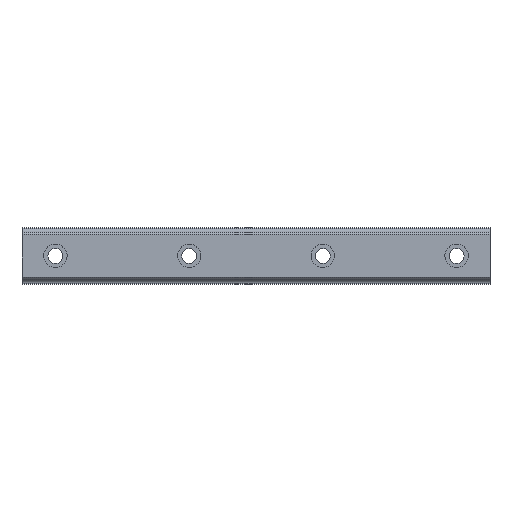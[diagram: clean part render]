
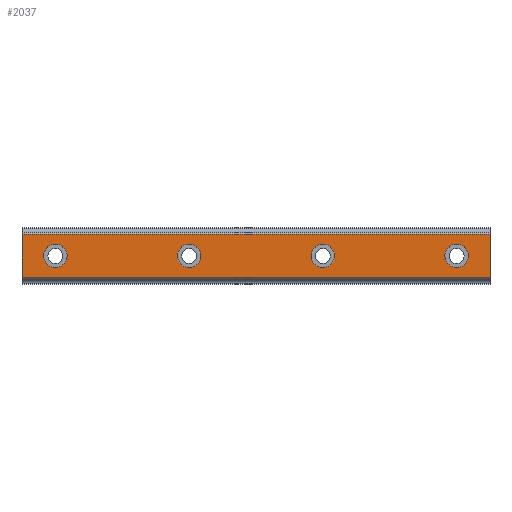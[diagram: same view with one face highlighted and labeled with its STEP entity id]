
A CAD part, top view. The second image highlights one B-rep face of the part: STEP entity #2037.
In plain terms, the highlighted planar face has unit normal (0, 0, 1).
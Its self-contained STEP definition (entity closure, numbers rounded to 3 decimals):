
#1674=CARTESIAN_POINT('POINT111',(260.,-12.859,
   27.5));
#1675=VERTEX_POINT('VERTEX111',#1674);
#1682=CARTESIAN_POINT('POINT112',(-20.,-12.859,
   27.5));
#1683=VERTEX_POINT('VERTEX112',#1682);
#1684=CARTESIAN_POINT('POS201',(-20.,-12.859,
   27.5));
#1685=DIRECTION('DIR298',(1.,0.,0.));
#1686=VECTOR('VEC104',#1685,1.);
#1687=LINE('STRAIGHT104',#1684,#1686);
#1688=EDGE_CURVE('EDGE162',#1683,#1675,#1687,.T.);
#1728=CARTESIAN_POINT('POINT113',(-20.,12.859,
   27.5));
#1729=VERTEX_POINT('VERTEX113',#1728);
#1730=CARTESIAN_POINT('POS204',(-20.,-12.859,
   27.5));
#1731=DIRECTION('DIR302',(0.,1.,0.));
#1732=VECTOR('VEC106',#1731,1.);
#1733=LINE('STRAIGHT106',#1730,#1732);
#1734=EDGE_CURVE('EDGE164',#1683,#1729,#1733,.T.);
#1771=CARTESIAN_POINT('POINT114',(260.,12.859,
   27.5));
#1772=VERTEX_POINT('VERTEX114',#1771);
#1781=CARTESIAN_POINT('POS208',(-20.,12.859,
   27.5));
#1782=DIRECTION('DIR307',(1.,0.,0.));
#1783=VECTOR('VEC109',#1782,1.);
#1784=LINE('STRAIGHT109',#1781,#1783);
#1785=EDGE_CURVE('EDGE167',#1729,#1772,#1784,.T.);
#1819=CARTESIAN_POINT('POS210',(260.,0.,
   27.5));
#1820=DIRECTION('DIR310',(0.,1.,0.));
#1821=VECTOR('VEC110',#1820,1.);
#1822=LINE('STRAIGHT110',#1819,#1821);
#1823=EDGE_CURVE('EDGE168',#1675,#1772,#1822,.T.);
#1854=CARTESIAN_POINT('POINT115',(87.,0.,
   27.5));
#1855=VERTEX_POINT('VERTEX115',#1854);
#1863=CARTESIAN_POINT('POINT116',(73.,0.,
   27.5));
#1864=VERTEX_POINT('VERTEX116',#1863);
#1871=CARTESIAN_POINT('POS214',(80.,0.,27.5)
   );
#1872=DIRECTION('DIR315',(0.,0.,-1.));
#1873=DIRECTION('DIR316',(1.,0.,0.));
#1874=AXIS2_PLACEMENT_3D('AXIS102',#1871,#1872,#1873);
#1875=CIRCLE('ELLIPSE48',#1874,7.);
#1876=EDGE_CURVE('EDGE171',#1855,#1864,#1875,.T.);
#1887=EDGE_CURVE('EDGE172',#1864,#1855,#1875,.T.);
#1894=CARTESIAN_POINT('POINT117',(167.,0.,
   27.5));
#1895=VERTEX_POINT('VERTEX117',#1894);
#1903=CARTESIAN_POINT('POINT118',(153.,0.,
   27.5));
#1904=VERTEX_POINT('VERTEX118',#1903);
#1911=CARTESIAN_POINT('POS218',(160.,0.,27.5)
   );
#1912=DIRECTION('DIR321',(0.,0.,-1.));
#1913=DIRECTION('DIR322',(1.,0.,0.));
#1914=AXIS2_PLACEMENT_3D('AXIS104',#1911,#1912,#1913);
#1915=CIRCLE('ELLIPSE49',#1914,7.);
#1916=EDGE_CURVE('EDGE175',#1895,#1904,#1915,.T.);
#1927=EDGE_CURVE('EDGE176',#1904,#1895,#1915,.T.);
#1934=CARTESIAN_POINT('POINT119',(247.,0.,
   27.5));
#1935=VERTEX_POINT('VERTEX119',#1934);
#1943=CARTESIAN_POINT('POINT120',(233.,0.,
   27.5));
#1944=VERTEX_POINT('VERTEX120',#1943);
#1951=CARTESIAN_POINT('POS222',(240.,0.,27.5)
   );
#1952=DIRECTION('DIR327',(0.,0.,-1.));
#1953=DIRECTION('DIR328',(1.,0.,0.));
#1954=AXIS2_PLACEMENT_3D('AXIS106',#1951,#1952,#1953);
#1955=CIRCLE('ELLIPSE50',#1954,7.);
#1956=EDGE_CURVE('EDGE179',#1935,#1944,#1955,.T.);
#1967=EDGE_CURVE('EDGE180',#1944,#1935,#1955,.T.);
#1999=ORIENTED_EDGE('COEDGE353',*,*,#1967,.T.);
#2000=ORIENTED_EDGE('COEDGE354',*,*,#1956,.T.);
#2001=EDGE_LOOP('NONE',(#1999,#2000));
#2002=FACE_BOUND('LOOP1',#2001,.T.);
#2003=ORIENTED_EDGE('COEDGE355',*,*,#1927,.T.);
#2004=ORIENTED_EDGE('COEDGE356',*,*,#1916,.T.);
#2005=EDGE_LOOP('NONE',(#2003,#2004));
#2006=FACE_BOUND('LOOP1',#2005,.T.);
#2007=ORIENTED_EDGE('COEDGE357',*,*,#1887,.T.);
#2008=ORIENTED_EDGE('COEDGE358',*,*,#1876,.T.);
#2009=EDGE_LOOP('NONE',(#2007,#2008));
#2010=FACE_BOUND('LOOP1',#2009,.T.);
#2011=CARTESIAN_POINT('POINT123',(-7.,0.,
   27.5));
#2012=VERTEX_POINT('VERTEX123',#2011);
#2013=CARTESIAN_POINT('POINT124',(7.,0.,
   27.5));
#2014=VERTEX_POINT('VERTEX124',#2013);
#2015=CARTESIAN_POINT('POS226',(0.,0.,27.5)
   );
#2016=DIRECTION('DIR335',(0.,0.,-1.));
#2017=DIRECTION('DIR336',(1.,0.,0.));
#2018=AXIS2_PLACEMENT_3D('AXIS110',#2015,#2016,#2017);
#2019=CIRCLE('ELLIPSE52',#2018,7.);
#2020=EDGE_CURVE('EDGE183',#2012,#2014,#2019,.T.);
#2021=ORIENTED_EDGE('COEDGE359',*,*,#2020,.T.);
#2022=EDGE_CURVE('EDGE184',#2014,#2012,#2019,.T.);
#2023=ORIENTED_EDGE('COEDGE360',*,*,#2022,.T.);
#2024=EDGE_LOOP('NONE',(#2021,#2023));
#2025=FACE_BOUND('LOOP1',#2024,.T.);
#2026=ORIENTED_EDGE('COEDGE361',*,*,#1823,.T.);
#2027=ORIENTED_EDGE('COEDGE362',*,*,#1785,.F.);
#2028=ORIENTED_EDGE('COEDGE363',*,*,#1734,.F.);
#2029=ORIENTED_EDGE('COEDGE364',*,*,#1688,.T.);
#2030=EDGE_LOOP('NONE',(#2026,#2027,#2028,#2029));
#2031=FACE_BOUND('LOOP1',#2030,.T.);
#2032=CARTESIAN_POINT('POS227',(-20.,0.,
   27.5));
#2033=DIRECTION('DIR337',(0.,0.,1.));
#2034=DIRECTION('DIR338',(1.,0.,0.));
#2035=AXIS2_PLACEMENT_3D('AXIS111',#2032,#2033,#2034);
#2036=PLANE('PLANE34',#2035);
#2037=ADVANCED_FACE('FACE66',(#2002,#2006,#2010,#2025,#2031),#2036,.T.);
